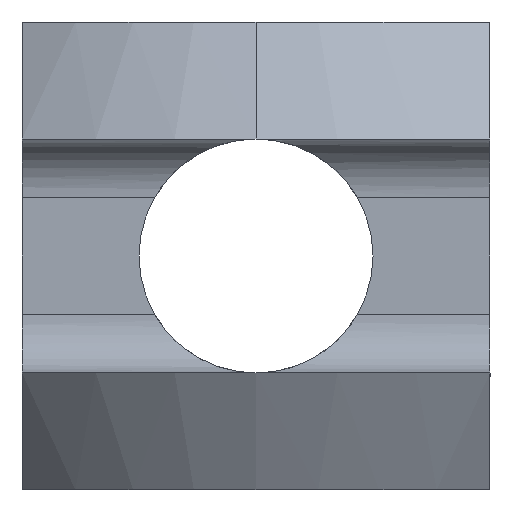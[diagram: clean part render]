
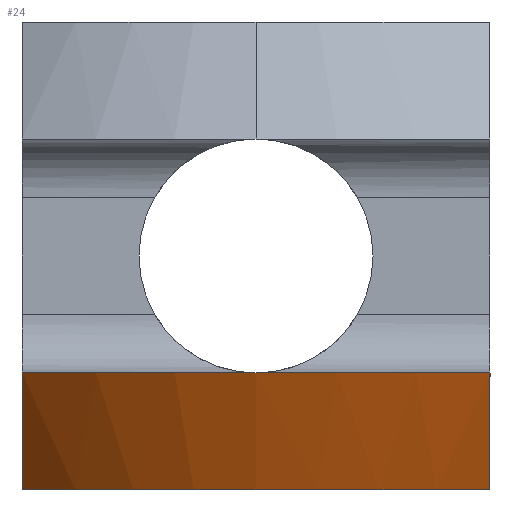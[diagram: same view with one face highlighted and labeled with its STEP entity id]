
A CAD part, left-side view. The second image highlights one B-rep face of the part: STEP entity #24.
In plain terms, the highlighted conical face has half-angle 30 degrees and reference radius 8 mm.
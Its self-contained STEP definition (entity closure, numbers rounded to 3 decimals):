
#19 = ORIENTED_EDGE ( 'NONE', *, *, #1722, .F. ) ;
#20 = ORIENTED_EDGE ( 'NONE', *, *, #1639, .T. ) ;
#21 = ORIENTED_EDGE ( 'NONE', *, *, #1595, .F. ) ;
#23 = EDGE_LOOP ( 'NONE', ( #25, #21, #20, #19 ) ) ;
#24 = ADVANCED_FACE ( 'NONE', ( #76 ), #70, .T. ) ;
#25 = ORIENTED_EDGE ( 'NONE', *, *, #1794, .F. ) ;
#65 = DIRECTION ( 'NONE',  ( 1., 0., 0. ) ) ;
#66 = DIRECTION ( 'NONE',  ( 0., 0., 1. ) ) ;
#67 = AXIS2_PLACEMENT_3D ( 'NONE', #69, #66, #65 ) ;
#69 = CARTESIAN_POINT ( 'NONE',  ( -13., 0., -2. ) ) ;
#70 = CONICAL_SURFACE ( 'NONE', #67, 8., 0.524 ) ;
#76 = FACE_OUTER_BOUND ( 'NONE', #23, .T. ) ;
#456 = DIRECTION ( 'NONE',  ( 0., 0., 1. ) ) ;
#658 = DIRECTION ( 'NONE',  ( 1., 0., 0. ) ) ;
#826 = CARTESIAN_POINT ( 'NONE',  ( -19.928, 4., -2. ) ) ;
#827 = CARTESIAN_POINT ( 'NONE',  ( -19.48, 4., -2.673 ) ) ;
#828 = CARTESIAN_POINT ( 'NONE',  ( -19.024, 4., -3.341 ) ) ;
#829 = CARTESIAN_POINT ( 'NONE',  ( -18.555, 4., -4. ) ) ;
#831 = B_SPLINE_CURVE_WITH_KNOTS ( 'NONE', 3,
 ( #829, #828, #827, #826 ),
 .UNSPECIFIED., .F., .F.,
 ( 4, 4 ),
 ( 0.014, 0.017 ),
 .UNSPECIFIED. ) ;
#869 = CARTESIAN_POINT ( 'NONE',  ( -13., 0., -4. ) ) ;
#870 = AXIS2_PLACEMENT_3D ( 'NONE', #869, #456, #658 ) ;
#871 = CIRCLE ( 'NONE', #870, 6.845 ) ;
#929 = CARTESIAN_POINT ( 'NONE',  ( -18.555, 4., -4. ) ) ;
#1064 = CARTESIAN_POINT ( 'NONE',  ( -19.48, -4., -2.673 ) ) ;
#1065 = CARTESIAN_POINT ( 'NONE',  ( -19.928, -4., -2. ) ) ;
#1066 = CARTESIAN_POINT ( 'NONE',  ( -18.555, -4., -4. ) ) ;
#1067 = B_SPLINE_CURVE_WITH_KNOTS ( 'NONE', 3,
 ( #1065, #1064, #1114, #1113 ),
 .UNSPECIFIED., .F., .F.,
 ( 4, 4 ),
 ( 0.006, 0.008 ),
 .UNSPECIFIED. ) ;
#1113 = CARTESIAN_POINT ( 'NONE',  ( -18.555, -4., -4. ) ) ;
#1114 = CARTESIAN_POINT ( 'NONE',  ( -19.024, -4., -3.341 ) ) ;
#1189 = CARTESIAN_POINT ( 'NONE',  ( -19.928, -4., -2. ) ) ;
#1190 = DIRECTION ( 'NONE',  ( 1., 0., 0. ) ) ;
#1191 = DIRECTION ( 'NONE',  ( 0., 0., 1. ) ) ;
#1192 = CARTESIAN_POINT ( 'NONE',  ( -13., 0., -2. ) ) ;
#1193 = AXIS2_PLACEMENT_3D ( 'NONE', #1192, #1191, #1190 ) ;
#1194 = CIRCLE ( 'NONE', #1193, 8. ) ;
#1195 = CARTESIAN_POINT ( 'NONE',  ( -19.928, 4., -2. ) ) ;
#1595 = EDGE_CURVE ( 'NONE', #1640, #1795, #831, .T. ) ;
#1639 = EDGE_CURVE ( 'NONE', #1640, #1723, #871, .T. ) ;
#1640 = VERTEX_POINT ( 'NONE', #929 ) ;
#1722 = EDGE_CURVE ( 'NONE', #1796, #1723, #1067, .T. ) ;
#1723 = VERTEX_POINT ( 'NONE', #1066 ) ;
#1794 = EDGE_CURVE ( 'NONE', #1795, #1796, #1194, .T. ) ;
#1795 = VERTEX_POINT ( 'NONE', #1195 ) ;
#1796 = VERTEX_POINT ( 'NONE', #1189 ) ;
